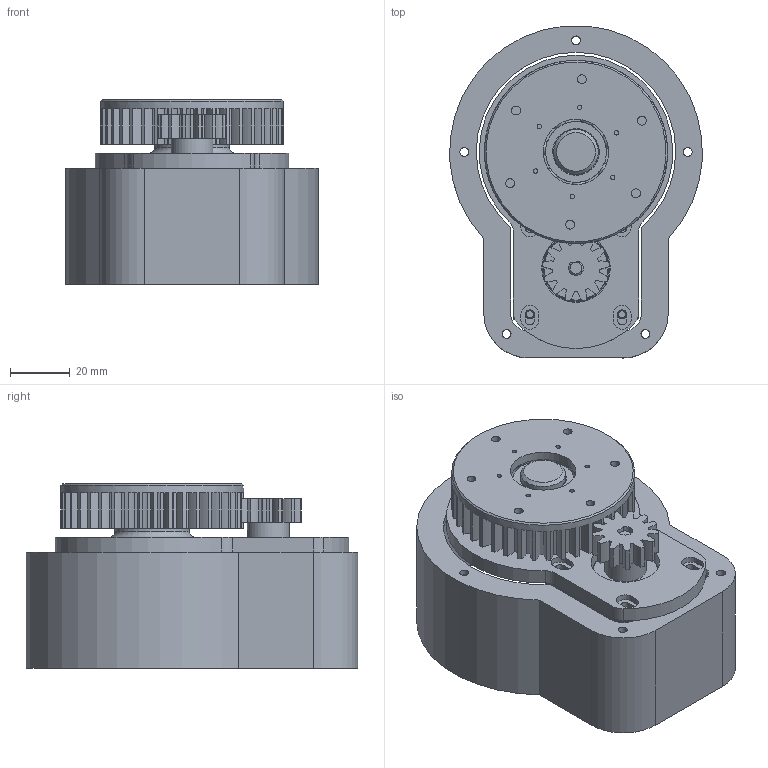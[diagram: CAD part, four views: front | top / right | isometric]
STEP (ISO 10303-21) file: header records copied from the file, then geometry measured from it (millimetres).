
FILE_DESCRIPTION(/* description */ (''),/* implementation_level */ '2;1');
FILE_NAME(/* name */ 'C:\Users\admin\Desktop\inventor\base rotante ingranaggi\step\base_rotante_ingranaggi_dritti2.stp',/* time_stamp */ '2021-09-23T20:39:48+02:00',/* author */ ('admin'),/* organization */ (''),/* preprocessor_version */ 'ST-DEVELOPER v18.1',/* originating_system */ 'Autodesk Inventor 2022',/* authorisation */ '');
FILE_SCHEMA (('AUTOMOTIVE_DESIGN { 1 0 10303 214 3 1 1 }'));
Length unit declared in the file: millimetre
Products named in the file (18): Assieme_ingranaggi; Nema17; Bottom_cap; Protective_film_bottom; Bearing_spring; Thick_washer; Rotor; Thick_washer_Thick; Bearing; Stator; Top_cap; Screw; SKF6002; Ingranaggi cilindrici; Ingranaggio cilindrico1; Ingranaggio cilindrico2; case; supporto_full
Assembly tree (21 placements, depth 3):
  Assieme_ingranaggi
    Nema17
      Bottom_cap
      Protective_film_bottom
      Bearing_spring
      Bearing  x2
      Thick_washer
      Rotor
      Thick_washer_Thick
      Stator
      Top_cap
      Screw  x4
    SKF6002
    Ingranaggi cilindrici
      Ingranaggio cilindrico1
      Ingranaggio cilindrico2
    case
    supporto_full
Bounding box: 84.82 x 111.46 x 62 mm (x, y, z)
Volume: 128405.5 mm3; surface area: 96357.5 mm2
Topology: 55 solids, 55 shells, 2343 faces, 5539 edges, 3289 vertices
Faces by surface type: cylinder 944, torus 660, plane 380, bspline 246, sphere 71, cone 42
Full cylindrical faces by diameter (mm): 1.5 x6, 2.5 x2, 3 x29, 5 x6, 7.5 x2, 9 x6, 11 x1, 12 x2, 13 x4, 14 x1, 15 x3, 16 x4, 20.44 x2, 22 x2, 23 x1, 24 x1, 25 x1, 26 x2, 26.5 x1, 26.56 x2, 32 x2, 61.5 x1
Entity records: 66046 total; most frequent: CARTESIAN_POINT 17111, DIRECTION 11516, ORIENTED_EDGE 9476, AXIS2_PLACEMENT_3D 5044, EDGE_CURVE 4738, CIRCLE 3046, VERTEX_POINT 2855, EDGE_LOOP 2127
